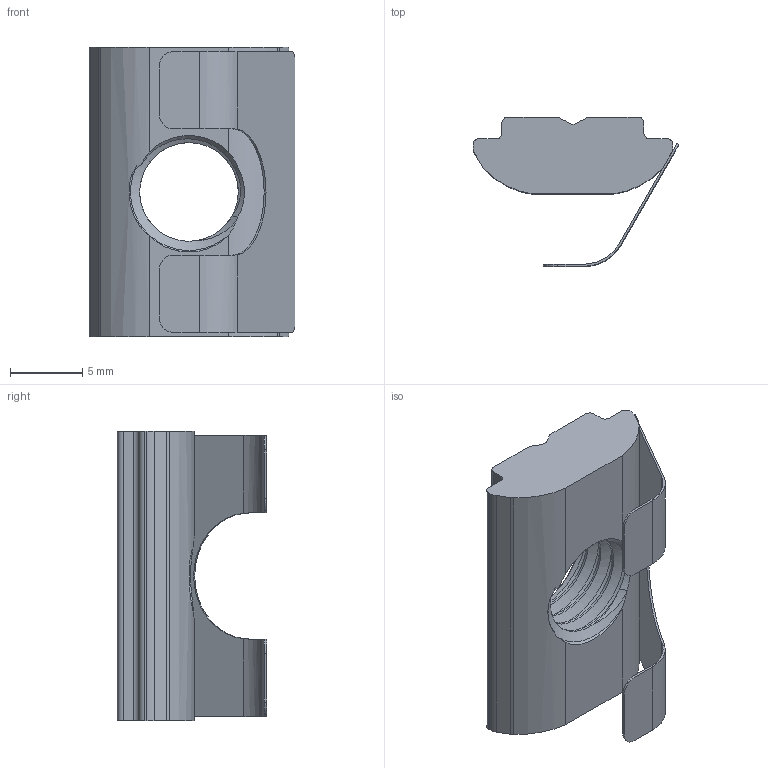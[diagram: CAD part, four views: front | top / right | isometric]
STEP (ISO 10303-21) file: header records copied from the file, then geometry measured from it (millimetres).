
FILE_DESCRIPTION (( 'STEP AP203' ), '1' );
FILE_NAME ('3308.010.004.STEP', '2023-05-24T06:33:26', ( '' ), ( '' ), 'SwSTEP 2.0', 'SolidWorks 2022', '' );
FILE_SCHEMA (( 'CONFIG_CONTROL_DESIGN' ));
Length unit declared in the file: millimetre
Products named in the file (3): 3308-M8; 3308粟え; 3308.010.004
Assembly tree (2 placements, depth 2):
  3308.010.004
    3308粟え
    3308-M8
Bounding box: 14.22 x 10.3 x 20 mm (x, y, z)
Volume: 967.7 mm3; surface area: 1285.9 mm2
Topology: 2 solids, 2 shells, 75 faces, 219 edges, 146 vertices
Faces by surface type: cylinder 33, plane 31, bspline 6, cone 5
Entity records: 5119 total; most frequent: CARTESIAN_POINT 2935, ORIENTED_EDGE 438, DIRECTION 361, EDGE_CURVE 219, VERTEX_POINT 146, AXIS2_PLACEMENT_3D 128, LINE 105, VECTOR 105
